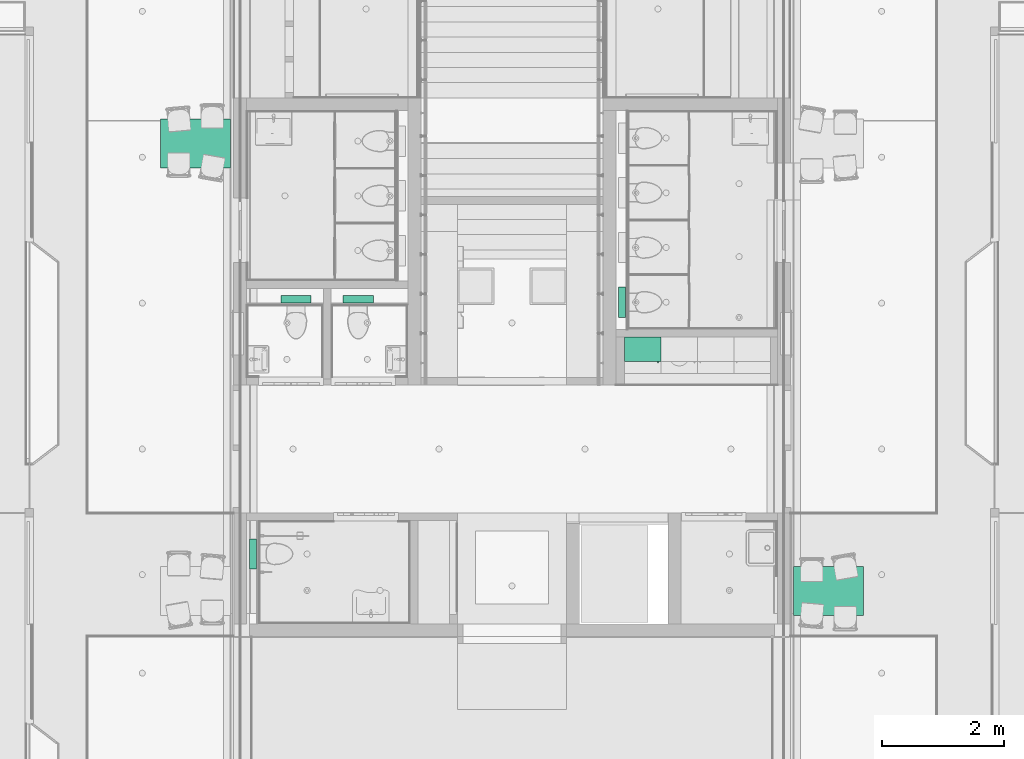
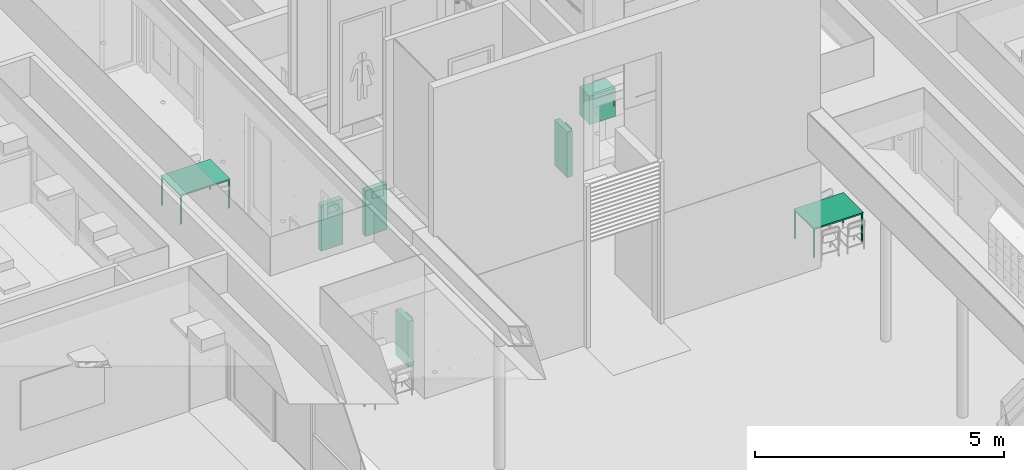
# One storey, part 179 of 347: 4 flow terminals, 3 distribution elements.
"""IFC2X3 building model written with IfcOpenShell, lengths in millimetres."""

from ifc_helpers import new_model, entity, si_unit, converted_unit, derived_unit, money_unit, direction, frame, origin_with_axes, place, context, subcontext, project, spatial, open_shell, faceted_brep, surface_model, source, transform, mapped, type_object, type_shapes, element, save


model = new_model("IFC2X3")

# Units and contexts
model_context = context("Model", 3, precision=0.01, world=origin_with_axes(), true_north=direction((0.0, 1.0)))
plan_context = context("Plan", 3, precision=0.01, world=origin_with_axes(), true_north=direction((0.0, 1.0)))
body_context = subcontext(model_context, "Body", "Model", "MODEL_VIEW")
ifc_project = project(units=[si_unit("LENGTHUNIT", "METRE", prefix="MILLI"), si_unit("AREAUNIT", "SQUARE_METRE"), si_unit("VOLUMEUNIT", "CUBIC_METRE"), converted_unit("PLANEANGLEUNIT", "DEGREE", entity("IfcPlaneAngleMeasure", 0.0174532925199), si_unit("PLANEANGLEUNIT", "RADIAN"), dimensions=[0, 0, 0, 0, 0, 0, 0]), money_unit("EUR"), converted_unit("TIMEUNIT", "Year", entity("IfcTimeMeasure", 31556926.0), si_unit("TIMEUNIT", "SECOND"), dimensions=[0, 0, 1, 0, 0, 0, 0]), si_unit("MASSUNIT", "GRAM", prefix="KILO"), si_unit("THERMODYNAMICTEMPERATUREUNIT", "DEGREE_CELSIUS"), si_unit("LUMINOUSINTENSITYUNIT", "LUMEN"), si_unit("ENERGYUNIT", "JOULE", prefix="MEGA"), derived_unit("THERMALCONDUCTANCEUNIT", [(si_unit("POWERUNIT", "WATT"), 1), (si_unit("LENGTHUNIT", "METRE"), -1), (si_unit("THERMODYNAMICTEMPERATUREUNIT", "KELVIN"), -1)]), derived_unit("SPECIFICHEATCAPACITYUNIT", [(si_unit("ENERGYUNIT", "JOULE"), 1), (si_unit("MASSUNIT", "GRAM", prefix="KILO"), -1), (si_unit("THERMODYNAMICTEMPERATUREUNIT", "KELVIN"), -1)]), derived_unit("MASSDENSITYUNIT", [(si_unit("MASSUNIT", "GRAM", prefix="KILO"), 1), (si_unit("VOLUMEUNIT", "CUBIC_METRE"), -1)])], contexts=[model_context, plan_context])

# Site, building, storey
site_placement = place(None, origin_with_axes())
site = spatial("IfcSite", under=ifc_project, at=site_placement, Name="Site", CompositionType="ELEMENT")
building_placement = place(site_placement, origin_with_axes())
building = spatial("IfcBuilding", under=site, at=building_placement, Name="Naam gebouw", CompositionType="ELEMENT")
storey_placement = place(building_placement, origin_with_axes())
storey = spatial("IfcBuildingStorey", under=building, at=storey_placement, Name="begane grond", CompositionType="ELEMENT", Elevation=0.0)

# Flow terminals
sanitary_terminal_type = type_object("IfcSanitaryTerminalType", Name="Inbouwreservoir 25 KM", PredefinedType="CISTERN")
shared_shape_1 = source(origin_with_axes(), body_context, "Body", "SurfaceModel", [
    faceted_brep([(0.0, 0.0, 0.0), (500.0, 0.0, 0.0), (500.0, 0.0, 1120.0), (0.0, 0.0, 1120.0), (0.0, 120.0, 0.0), (500.0, 120.0, 0.0), (500.0, 120.0, 1120.0), (0.0, 120.0, 1120.0)], [[[0, 1, 2, 3]], [[0, 4, 5, 1]], [[1, 5, 6, 2]], [[3, 2, 6, 7]], [[4, 0, 3, 7]], [[5, 4, 7, 6]]]),
    surface_model("IfcShellBasedSurfaceModel", [(1.0, 0.0, 0.0), (499.0, 0.0, 0.0), (499.0, 120.0, 1120.0), (1.0, 120.0, 1120.0)], [open_shell([[[0, 1, 2, 3]]])]),
    surface_model("IfcShellBasedSurfaceModel", [(1.0, 0.0, 1120.0), (499.0, 0.0, 1120.0), (499.0, 120.0, 0.0), (1.0, 120.0, 0.0)], [open_shell([[[0, 1, 2, 3]]])]),
    faceted_brep([(375.0, -60.0, 920.0), (125.0, -60.0, 920.0), (125.0, -50.0, 920.0), (375.0, -50.0, 920.0), (375.0, -60.0, 1080.0), (125.0, -60.0, 1080.0), (125.0, -50.0, 1080.0), (375.0, -50.0, 1080.0)], [[[0, 1, 2, 3]], [[1, 0, 4, 5]], [[2, 1, 5, 6]], [[3, 2, 6, 7]], [[0, 3, 7, 4]], [[5, 4, 7, 6]]]),
    faceted_brep([(325.0, 0.0, 950.0), (175.0, 0.0, 950.0), (175.0, 0.0, 1050.0), (325.0, 0.0, 1050.0), (325.0, -50.0, 950.0), (175.0, -50.0, 950.0), (175.0, -50.0, 1050.0), (325.0, -50.0, 1050.0)], [[[0, 1, 2, 3]], [[1, 0, 4, 5]], [[2, 1, 5, 6]], [[3, 2, 6, 7]], [[0, 3, 7, 4]], [[5, 4, 7, 6]]]),
    surface_model("IfcShellBasedSurfaceModel", [(175.0, -60.0, 920.0), (325.0, -60.0, 920.0), (325.0, -60.0, 955.0), (175.0, -60.0, 955.0)], [open_shell([[[0, 1, 2, 3]]])]),
    surface_model("IfcShellBasedSurfaceModel", [(175.0, -60.0, 955.0), (265.0, -60.0, 955.0), (265.0, -60.0, 1045.0), (175.0, -60.0, 1045.0)], [open_shell([[[0, 1, 2, 3]]])]),
    surface_model("IfcShellBasedSurfaceModel", [(265.0, -60.0, 955.0), (325.0, -60.0, 955.0), (325.0, -60.0, 1045.0), (265.0, -60.0, 1045.0)], [open_shell([[[0, 1, 2, 3]]])]),
])
for number, where, z_axis, x_axis, name in (
    (1, (36272.5, 31429.9999276, 0.0), (0.0, 0.0, 1.0), (1.0, 0.0, 0.0), "53_Sanitair-inbouw DuoFix"),
    (2, (37297.5, 31429.9999276, 0.0), (0.0, 0.0, 1.0), (1.0, 0.0, 0.0), "53_Sanitair-inbouw DuoFix"),
):
    element("IfcFlowTerminal", number, at=place(storey_placement, frame(where, z_axis=z_axis, x_axis=x_axis)), inside=storey, type_object=sanitary_terminal_type, Name=name, context=body_context, shape_type="MappedRepresentation", body=[
        mapped(shared_shape_1, transform((0.0, 0.0, 0.0))),
    ])
shared_shape_2 = source(origin_with_axes(), body_context, "Body", "SurfaceModel", [
    faceted_brep([(0.0, 0.0, 0.0), (0.0, 0.0, 1120.0), (-500.0, 0.0, 1120.0), (-500.0, 0.0, 0.0), (0.0, 120.0, 0.0), (0.0, 120.0, 1120.0), (-500.0, 120.0, 1120.0), (-500.0, 120.0, 0.0)], [[[0, 1, 2, 3]], [[4, 5, 1, 0]], [[1, 5, 6, 2]], [[3, 2, 6, 7]], [[0, 3, 7, 4]], [[7, 6, 5, 4]]]),
    surface_model("IfcShellBasedSurfaceModel", [(-1.0, 0.0, 0.0), (-1.0, 120.0, 1120.0), (-499.0, 120.0, 1120.0), (-499.0, 0.0, 0.0)], [open_shell([[[0, 1, 2, 3]]])]),
    surface_model("IfcShellBasedSurfaceModel", [(-1.0, 0.0, 1120.0), (-1.0, 120.0, 0.0), (-499.0, 120.0, 0.0), (-499.0, 0.0, 1120.0)], [open_shell([[[0, 1, 2, 3]]])]),
    faceted_brep([(-375.0, -60.0, 920.0), (-375.0, -50.0, 920.0), (-125.0, -50.0, 920.0), (-125.0, -60.0, 920.0), (-375.0, -60.0, 1080.0), (-375.0, -50.0, 1080.0), (-125.0, -50.0, 1080.0), (-125.0, -60.0, 1080.0)], [[[0, 1, 2, 3]], [[0, 4, 5, 1]], [[1, 5, 6, 2]], [[2, 6, 7, 3]], [[3, 7, 4, 0]], [[7, 6, 5, 4]]]),
    faceted_brep([(-325.0, 0.0, 950.0), (-325.0, 0.0, 1050.0), (-175.0, 0.0, 1050.0), (-175.0, 0.0, 950.0), (-325.0, -50.0, 950.0), (-325.0, -50.0, 1050.0), (-175.0, -50.0, 1050.0), (-175.0, -50.0, 950.0)], [[[0, 1, 2, 3]], [[0, 4, 5, 1]], [[1, 5, 6, 2]], [[2, 6, 7, 3]], [[3, 7, 4, 0]], [[7, 6, 5, 4]]]),
    surface_model("IfcShellBasedSurfaceModel", [(-175.0, -60.0, 920.0), (-175.0, -60.0, 955.0), (-325.0, -60.0, 955.0), (-325.0, -60.0, 920.0)], [open_shell([[[0, 1, 2, 3]]])]),
    surface_model("IfcShellBasedSurfaceModel", [(-175.0, -60.0, 955.0), (-175.0, -60.0, 1045.0), (-265.0, -60.0, 1045.0), (-265.0, -60.0, 955.0)], [open_shell([[[0, 1, 2, 3]]])]),
    surface_model("IfcShellBasedSurfaceModel", [(-265.0, -60.0, 955.0), (-265.0, -60.0, 1045.0), (-325.0, -60.0, 1045.0), (-325.0, -60.0, 955.0)], [open_shell([[[0, 1, 2, 3]]])]),
])
type_shapes(sanitary_terminal_type, [shared_shape_1, shared_shape_2])
for number, where, z_axis, x_axis, name in (
    (3, (35875.0, 27550.0, 0.0), (0.0, 0.0, 1.0), (0.0, 1.0, 0.0), "53_Sanitair-inbouw DuoFix"),
    (4, (41945.000006, 31689.9999523, 0.0), (0.0, 0.0, 1.0), (0.0, 1.0, 0.0), "53_Sanitair-inbouw DuoFix"),
):
    element("IfcFlowTerminal", number, at=place(storey_placement, frame(where, z_axis=z_axis, x_axis=x_axis)), inside=storey, type_object=sanitary_terminal_type, Name=name, context=body_context, shape_type="MappedRepresentation", body=[
        mapped(shared_shape_2, transform((0.0, 0.0, 0.0))),
    ])

# Distribution elements
distribution_element_type_1 = type_object("IfcDistributionElementType", Name="Tafel rechthoekig 01 25")
shared_shape_3 = source(origin_with_axes(), body_context, "Body", "Brep", [
    faceted_brep([(-37.3205080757, 10.0, 0.0), (-40.0, 20.0, 0.0), (-37.3205080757, 30.0, 0.0), (-30.0, 37.3205080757, 0.0), (-20.0, 40.0, 0.0), (-10.0, 37.3205080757, 0.0), (-2.67949192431, 30.0, 0.0), (0.0, 20.0, 0.0), (-2.67949192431, 10.0, 0.0), (-10.0, 2.67949192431, 0.0), (-20.0, 0.0, 0.0), (-30.0, 2.67949192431, 0.0), (-37.3205080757, 10.0, 700.0), (-40.0, 20.0, 700.0), (-37.3205080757, 30.0, 700.0), (-30.0, 37.3205080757, 700.0), (-20.0, 40.0, 700.0), (-10.0, 37.3205080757, 700.0), (-2.67949192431, 30.0, 700.0), (0.0, 20.0, 700.0), (-2.67949192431, 10.0, 700.0), (-10.0, 2.67949192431, 700.0), (-20.0, 0.0, 700.0), (-30.0, 2.67949192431, 700.0)], [[[0, 1, 2, 3, 4, 5, 6, 7, 8, 9, 10, 11]], [[0, 12, 13, 1]], [[1, 13, 14, 2]], [[2, 14, 15, 3]], [[3, 15, 16, 4]], [[4, 16, 17, 5]], [[5, 17, 18, 6]], [[6, 18, 19, 7]], [[7, 19, 20, 8]], [[8, 20, 21, 9]], [[9, 21, 22, 10]], [[10, 22, 23, 11]], [[11, 23, 12, 0]], [[12, 23, 22, 21, 20, 19, 18, 17, 16, 15, 14, 13]]]),
    faceted_brep([(-1147.32050808, 10.0, 0.0), (-1150.0, 20.0, 0.0), (-1147.32050808, 30.0, 0.0), (-1140.0, 37.3205080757, 0.0), (-1130.0, 40.0, 0.0), (-1120.0, 37.3205080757, 0.0), (-1112.67949192, 30.0, 0.0), (-1110.0, 20.0, 0.0), (-1112.67949192, 10.0, 0.0), (-1120.0, 2.67949192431, 0.0), (-1130.0, 0.0, 0.0), (-1140.0, 2.67949192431, 0.0), (-1147.32050808, 10.0, 700.0), (-1150.0, 20.0, 700.0), (-1147.32050808, 30.0, 700.0), (-1140.0, 37.3205080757, 700.0), (-1130.0, 40.0, 700.0), (-1120.0, 37.3205080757, 700.0), (-1112.67949192, 30.0, 700.0), (-1110.0, 20.0, 700.0), (-1112.67949192, 10.0, 700.0), (-1120.0, 2.67949192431, 700.0), (-1130.0, 0.0, 700.0), (-1140.0, 2.67949192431, 700.0)], [[[0, 1, 2, 3, 4, 5, 6, 7, 8, 9, 10, 11]], [[0, 12, 13, 1]], [[1, 13, 14, 2]], [[2, 14, 15, 3]], [[3, 15, 16, 4]], [[4, 16, 17, 5]], [[5, 17, 18, 6]], [[6, 18, 19, 7]], [[7, 19, 20, 8]], [[8, 20, 21, 9]], [[9, 21, 22, 10]], [[10, 22, 23, 11]], [[11, 23, 12, 0]], [[12, 23, 22, 21, 20, 19, 18, 17, 16, 15, 14, 13]]]),
    faceted_brep([(-37.3205080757, 770.0, 0.0), (-40.0, 780.0, 0.0), (-37.3205080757, 790.0, 0.0), (-30.0, 797.320508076, 0.0), (-20.0, 800.0, 0.0), (-10.0, 797.320508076, 0.0), (-2.67949192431, 790.0, 0.0), (0.0, 780.0, 0.0), (-2.67949192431, 770.0, 0.0), (-10.0, 762.679491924, 0.0), (-20.0, 760.0, 0.0), (-30.0, 762.679491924, 0.0), (-37.3205080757, 770.0, 700.0), (-40.0, 780.0, 700.0), (-37.3205080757, 790.0, 700.0), (-30.0, 797.320508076, 700.0), (-20.0, 800.0, 700.0), (-10.0, 797.320508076, 700.0), (-2.67949192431, 790.0, 700.0), (0.0, 780.0, 700.0), (-2.67949192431, 770.0, 700.0), (-10.0, 762.679491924, 700.0), (-20.0, 760.0, 700.0), (-30.0, 762.679491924, 700.0)], [[[0, 1, 2, 3, 4, 5, 6, 7, 8, 9, 10, 11]], [[0, 12, 13, 1]], [[1, 13, 14, 2]], [[2, 14, 15, 3]], [[3, 15, 16, 4]], [[4, 16, 17, 5]], [[5, 17, 18, 6]], [[6, 18, 19, 7]], [[7, 19, 20, 8]], [[8, 20, 21, 9]], [[9, 21, 22, 10]], [[10, 22, 23, 11]], [[11, 23, 12, 0]], [[12, 23, 22, 21, 20, 19, 18, 17, 16, 15, 14, 13]]]),
    faceted_brep([(-1147.32050808, 770.0, 0.0), (-1150.0, 780.0, 0.0), (-1147.32050808, 790.0, 0.0), (-1140.0, 797.320508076, 0.0), (-1130.0, 800.0, 0.0), (-1120.0, 797.320508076, 0.0), (-1112.67949192, 790.0, 0.0), (-1110.0, 780.0, 0.0), (-1112.67949192, 770.0, 0.0), (-1120.0, 762.679491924, 0.0), (-1130.0, 760.0, 0.0), (-1140.0, 762.679491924, 0.0), (-1147.32050808, 770.0, 700.0), (-1150.0, 780.0, 700.0), (-1147.32050808, 790.0, 700.0), (-1140.0, 797.320508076, 700.0), (-1130.0, 800.0, 700.0), (-1120.0, 797.320508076, 700.0), (-1112.67949192, 790.0, 700.0), (-1110.0, 780.0, 700.0), (-1112.67949192, 770.0, 700.0), (-1120.0, 762.679491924, 700.0), (-1130.0, 760.0, 700.0), (-1140.0, 762.679491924, 700.0)], [[[0, 1, 2, 3, 4, 5, 6, 7, 8, 9, 10, 11]], [[0, 12, 13, 1]], [[1, 13, 14, 2]], [[2, 14, 15, 3]], [[3, 15, 16, 4]], [[4, 16, 17, 5]], [[5, 17, 18, 6]], [[6, 18, 19, 7]], [[7, 19, 20, 8]], [[8, 20, 21, 9]], [[9, 21, 22, 10]], [[10, 22, 23, 11]], [[11, 23, 12, 0]], [[12, 23, 22, 21, 20, 19, 18, 17, 16, 15, 14, 13]]]),
    faceted_brep([(-1150.0, 0.0, 700.0), (-1150.0, 800.0, 700.0), (0.0, 800.0, 700.0), (0.0, 0.0, 700.0), (-1150.0, 0.0, 720.0), (-1150.0, 800.0, 720.0), (0.0, 800.0, 720.0), (0.0, 0.0, 720.0)], [[[0, 1, 2, 3]], [[0, 4, 5, 1]], [[1, 5, 6, 2]], [[2, 6, 7, 3]], [[3, 7, 4, 0]], [[7, 6, 5, 4]]]),
    faceted_brep([(-1110.0, 10.0, 675.0), (-1110.0, 30.0, 675.0), (-40.0, 30.0, 675.0), (-40.0, 10.0, 675.0), (-1110.0, 10.0, 700.0), (-1110.0, 30.0, 700.0), (-40.0, 30.0, 700.0), (-40.0, 10.0, 700.0)], [[[0, 1, 2, 3]], [[0, 4, 5, 1]], [[1, 5, 6, 2]], [[2, 6, 7, 3]], [[3, 7, 4, 0]], [[7, 6, 5, 4]]]),
    faceted_brep([(-30.0, 40.0, 675.0), (-30.0, 760.0, 675.0), (-10.0, 760.0, 675.0), (-10.0, 40.0, 675.0), (-30.0, 40.0, 700.0), (-30.0, 760.0, 700.0), (-10.0, 760.0, 700.0), (-10.0, 40.0, 700.0)], [[[0, 1, 2, 3]], [[0, 4, 5, 1]], [[1, 5, 6, 2]], [[2, 6, 7, 3]], [[3, 7, 4, 0]], [[7, 6, 5, 4]]]),
    faceted_brep([(-40.0, 790.0, 675.0), (-40.0, 770.0, 675.0), (-1110.0, 770.0, 675.0), (-1110.0, 790.0, 675.0), (-40.0, 790.0, 700.0), (-40.0, 770.0, 700.0), (-1110.0, 770.0, 700.0), (-1110.0, 790.0, 700.0)], [[[0, 1, 2, 3]], [[0, 4, 5, 1]], [[1, 5, 6, 2]], [[2, 6, 7, 3]], [[3, 7, 4, 0]], [[7, 6, 5, 4]]]),
    faceted_brep([(-1120.0, 760.0, 675.0), (-1120.0, 40.0, 675.0), (-1140.0, 40.0, 675.0), (-1140.0, 760.0, 675.0), (-1120.0, 760.0, 700.0), (-1120.0, 40.0, 700.0), (-1140.0, 40.0, 700.0), (-1140.0, 760.0, 700.0)], [[[0, 1, 2, 3]], [[0, 4, 5, 1]], [[1, 5, 6, 2]], [[2, 6, 7, 3]], [[3, 7, 4, 0]], [[7, 6, 5, 4]]]),
])
distribution_element_1_placement = place(storey_placement, frame((35445.0, 33650.0, 0.0), z_axis=(0.0, 0.0, 1.0), x_axis=(1.0, 0.0, 0.0)))
element("IfcDistributionElement", 5, at=distribution_element_1_placement, inside=storey, type_object=distribution_element_type_1, Name="65 Beveiliging_73 pantryblok", context=body_context, shape_type="MappedRepresentation", body=[
    mapped(shared_shape_3, transform((0.0, 0.0, 0.0))),
])
shared_shape_4 = source(origin_with_axes(), body_context, "Body", "Brep", [
    faceted_brep([(37.3205080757, 10.0, 0.0), (30.0, 2.67949192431, 0.0), (20.0, 0.0, 0.0), (10.0, 2.67949192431, 0.0), (2.67949192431, 10.0, 0.0), (0.0, 20.0, 0.0), (2.67949192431, 30.0, 0.0), (10.0, 37.3205080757, 0.0), (20.0, 40.0, 0.0), (30.0, 37.3205080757, 0.0), (37.3205080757, 30.0, 0.0), (40.0, 20.0, 0.0), (37.3205080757, 10.0, 700.0), (30.0, 2.67949192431, 700.0), (20.0, 0.0, 700.0), (10.0, 2.67949192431, 700.0), (2.67949192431, 10.0, 700.0), (0.0, 20.0, 700.0), (2.67949192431, 30.0, 700.0), (10.0, 37.3205080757, 700.0), (20.0, 40.0, 700.0), (30.0, 37.3205080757, 700.0), (37.3205080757, 30.0, 700.0), (40.0, 20.0, 700.0)], [[[0, 1, 2, 3, 4, 5, 6, 7, 8, 9, 10, 11]], [[1, 0, 12, 13]], [[2, 1, 13, 14]], [[3, 2, 14, 15]], [[4, 3, 15, 16]], [[5, 4, 16, 17]], [[6, 5, 17, 18]], [[7, 6, 18, 19]], [[8, 7, 19, 20]], [[9, 8, 20, 21]], [[10, 9, 21, 22]], [[11, 10, 22, 23]], [[0, 11, 23, 12]], [[12, 23, 22, 21, 20, 19, 18, 17, 16, 15, 14, 13]]]),
    faceted_brep([(1147.32050808, 10.0, 0.0), (1140.0, 2.67949192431, 0.0), (1130.0, 0.0, 0.0), (1120.0, 2.67949192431, 0.0), (1112.67949192, 10.0, 0.0), (1110.0, 20.0, 0.0), (1112.67949192, 30.0, 0.0), (1120.0, 37.3205080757, 0.0), (1130.0, 40.0, 0.0), (1140.0, 37.3205080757, 0.0), (1147.32050808, 30.0, 0.0), (1150.0, 20.0, 0.0), (1147.32050808, 10.0, 700.0), (1140.0, 2.67949192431, 700.0), (1130.0, 0.0, 700.0), (1120.0, 2.67949192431, 700.0), (1112.67949192, 10.0, 700.0), (1110.0, 20.0, 700.0), (1112.67949192, 30.0, 700.0), (1120.0, 37.3205080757, 700.0), (1130.0, 40.0, 700.0), (1140.0, 37.3205080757, 700.0), (1147.32050808, 30.0, 700.0), (1150.0, 20.0, 700.0)], [[[0, 1, 2, 3, 4, 5, 6, 7, 8, 9, 10, 11]], [[1, 0, 12, 13]], [[2, 1, 13, 14]], [[3, 2, 14, 15]], [[4, 3, 15, 16]], [[5, 4, 16, 17]], [[6, 5, 17, 18]], [[7, 6, 18, 19]], [[8, 7, 19, 20]], [[9, 8, 20, 21]], [[10, 9, 21, 22]], [[11, 10, 22, 23]], [[0, 11, 23, 12]], [[12, 23, 22, 21, 20, 19, 18, 17, 16, 15, 14, 13]]]),
    faceted_brep([(37.3205080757, 770.0, 0.0), (30.0, 762.679491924, 0.0), (20.0, 760.0, 0.0), (10.0, 762.679491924, 0.0), (2.67949192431, 770.0, 0.0), (0.0, 780.0, 0.0), (2.67949192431, 790.0, 0.0), (10.0, 797.320508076, 0.0), (20.0, 800.0, 0.0), (30.0, 797.320508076, 0.0), (37.3205080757, 790.0, 0.0), (40.0, 780.0, 0.0), (37.3205080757, 770.0, 700.0), (30.0, 762.679491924, 700.0), (20.0, 760.0, 700.0), (10.0, 762.679491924, 700.0), (2.67949192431, 770.0, 700.0), (0.0, 780.0, 700.0), (2.67949192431, 790.0, 700.0), (10.0, 797.320508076, 700.0), (20.0, 800.0, 700.0), (30.0, 797.320508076, 700.0), (37.3205080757, 790.0, 700.0), (40.0, 780.0, 700.0)], [[[0, 1, 2, 3, 4, 5, 6, 7, 8, 9, 10, 11]], [[1, 0, 12, 13]], [[2, 1, 13, 14]], [[3, 2, 14, 15]], [[4, 3, 15, 16]], [[5, 4, 16, 17]], [[6, 5, 17, 18]], [[7, 6, 18, 19]], [[8, 7, 19, 20]], [[9, 8, 20, 21]], [[10, 9, 21, 22]], [[11, 10, 22, 23]], [[0, 11, 23, 12]], [[12, 23, 22, 21, 20, 19, 18, 17, 16, 15, 14, 13]]]),
    faceted_brep([(1147.32050808, 770.0, 0.0), (1140.0, 762.679491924, 0.0), (1130.0, 760.0, 0.0), (1120.0, 762.679491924, 0.0), (1112.67949192, 770.0, 0.0), (1110.0, 780.0, 0.0), (1112.67949192, 790.0, 0.0), (1120.0, 797.320508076, 0.0), (1130.0, 800.0, 0.0), (1140.0, 797.320508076, 0.0), (1147.32050808, 790.0, 0.0), (1150.0, 780.0, 0.0), (1147.32050808, 770.0, 700.0), (1140.0, 762.679491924, 700.0), (1130.0, 760.0, 700.0), (1120.0, 762.679491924, 700.0), (1112.67949192, 770.0, 700.0), (1110.0, 780.0, 700.0), (1112.67949192, 790.0, 700.0), (1120.0, 797.320508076, 700.0), (1130.0, 800.0, 700.0), (1140.0, 797.320508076, 700.0), (1147.32050808, 790.0, 700.0), (1150.0, 780.0, 700.0)], [[[0, 1, 2, 3, 4, 5, 6, 7, 8, 9, 10, 11]], [[1, 0, 12, 13]], [[2, 1, 13, 14]], [[3, 2, 14, 15]], [[4, 3, 15, 16]], [[5, 4, 16, 17]], [[6, 5, 17, 18]], [[7, 6, 18, 19]], [[8, 7, 19, 20]], [[9, 8, 20, 21]], [[10, 9, 21, 22]], [[11, 10, 22, 23]], [[0, 11, 23, 12]], [[12, 23, 22, 21, 20, 19, 18, 17, 16, 15, 14, 13]]]),
    faceted_brep([(1150.0, 0.0, 700.0), (0.0, 0.0, 700.0), (0.0, 800.0, 700.0), (1150.0, 800.0, 700.0), (1150.0, 0.0, 720.0), (0.0, 0.0, 720.0), (0.0, 800.0, 720.0), (1150.0, 800.0, 720.0)], [[[0, 1, 2, 3]], [[1, 0, 4, 5]], [[2, 1, 5, 6]], [[3, 2, 6, 7]], [[0, 3, 7, 4]], [[5, 4, 7, 6]]]),
    faceted_brep([(1110.0, 10.0, 675.0), (40.0, 10.0, 675.0), (40.0, 30.0, 675.0), (1110.0, 30.0, 675.0), (1110.0, 10.0, 700.0), (40.0, 10.0, 700.0), (40.0, 30.0, 700.0), (1110.0, 30.0, 700.0)], [[[0, 1, 2, 3]], [[1, 0, 4, 5]], [[2, 1, 5, 6]], [[3, 2, 6, 7]], [[0, 3, 7, 4]], [[5, 4, 7, 6]]]),
    faceted_brep([(30.0, 40.0, 675.0), (10.0, 40.0, 675.0), (10.0, 760.0, 675.0), (30.0, 760.0, 675.0), (30.0, 40.0, 700.0), (10.0, 40.0, 700.0), (10.0, 760.0, 700.0), (30.0, 760.0, 700.0)], [[[0, 1, 2, 3]], [[1, 0, 4, 5]], [[2, 1, 5, 6]], [[3, 2, 6, 7]], [[0, 3, 7, 4]], [[5, 4, 7, 6]]]),
    faceted_brep([(40.0, 790.0, 675.0), (1110.0, 790.0, 675.0), (1110.0, 770.0, 675.0), (40.0, 770.0, 675.0), (40.0, 790.0, 700.0), (1110.0, 790.0, 700.0), (1110.0, 770.0, 700.0), (40.0, 770.0, 700.0)], [[[0, 1, 2, 3]], [[1, 0, 4, 5]], [[2, 1, 5, 6]], [[3, 2, 6, 7]], [[0, 3, 7, 4]], [[5, 4, 7, 6]]]),
    faceted_brep([(1120.0, 760.0, 675.0), (1140.0, 760.0, 675.0), (1140.0, 40.0, 675.0), (1120.0, 40.0, 675.0), (1120.0, 760.0, 700.0), (1140.0, 760.0, 700.0), (1140.0, 40.0, 700.0), (1120.0, 40.0, 700.0)], [[[0, 1, 2, 3]], [[1, 0, 4, 5]], [[2, 1, 5, 6]], [[3, 2, 6, 7]], [[0, 3, 7, 4]], [[5, 4, 7, 6]]]),
])
type_shapes(distribution_element_type_1, [shared_shape_3, shared_shape_4])
distribution_element_2_placement = place(storey_placement, frame((45854.9999994, 27090.0, 0.0), z_axis=(0.0, 0.0, 1.0), x_axis=(-1.0, 0.0, 0.0)))
element("IfcDistributionElement", 6, at=distribution_element_2_placement, inside=storey, type_object=distribution_element_type_1, Name="65 Beveiliging_73 pantryblok", context=body_context, shape_type="MappedRepresentation", body=[
    mapped(shared_shape_4, transform((0.0, 0.0, 0.0))),
])
distribution_element_type_2 = type_object("IfcDistributionElementType", Name="Bovenkast recht 25")
shared_shape_5 = source(origin_with_axes(), body_context, "Body", "Brep", [
    faceted_brep([(18.0, -380.0, 1841.0), (582.0, -380.0, 1841.0), (582.0, -380.0, 1859.0), (18.0, -380.0, 1859.0), (18.0, -18.0, 1841.0), (582.0, -18.0, 1841.0), (582.0, -18.0, 1859.0), (18.0, -18.0, 1859.0)], [[[0, 1, 2, 3]], [[0, 4, 5, 1]], [[1, 5, 6, 2]], [[3, 2, 6, 7]], [[4, 0, 3, 7]], [[5, 4, 7, 6]]]),
    faceted_brep([(546.0, -398.0, 1776.0), (546.0, -398.0, 1786.0), (556.0, -398.0, 1786.0), (556.0, -398.0, 1776.0), (546.0, -408.0, 1776.0), (546.0, -411.472963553, 1776.30384494), (546.0, -414.840402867, 1777.20614758), (546.0, -418.0, 1778.67949192), (546.0, -420.855752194, 1780.67911114), (546.0, -423.320888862, 1783.14424781), (546.0, -425.320508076, 1786.0), (546.0, -426.793852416, 1789.15959713), (546.0, -427.69615506, 1792.52703645), (546.0, -428.0, 1796.0), (546.0, -428.0, 1906.0), (546.0, -427.69615506, 1909.47296355), (546.0, -426.793852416, 1912.84040287), (546.0, -425.320508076, 1916.0), (546.0, -423.320888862, 1918.85575219), (546.0, -420.855752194, 1921.32088886), (546.0, -418.0, 1923.32050808), (546.0, -414.840402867, 1924.79385242), (546.0, -411.472963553, 1925.69615506), (546.0, -408.0, 1926.0), (546.0, -398.0, 1926.0), (546.0, -398.0, 1916.0), (546.0, -408.0, 1916.0), (546.0, -409.736481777, 1915.84807753), (546.0, -411.420201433, 1915.39692621), (546.0, -413.0, 1914.66025404), (546.0, -414.427876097, 1913.66044443), (546.0, -415.660444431, 1912.4278761), (546.0, -416.660254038, 1911.0), (546.0, -417.396926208, 1909.42020143), (546.0, -417.84807753, 1907.73648178), (546.0, -418.0, 1906.0), (546.0, -418.0, 1796.0), (546.0, -417.84807753, 1794.26351822), (546.0, -417.396926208, 1792.57979857), (546.0, -416.660254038, 1791.0), (546.0, -415.660444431, 1789.5721239), (546.0, -414.427876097, 1788.33955557), (546.0, -413.0, 1787.33974596), (546.0, -411.420201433, 1786.60307379), (546.0, -409.736481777, 1786.15192247), (546.0, -408.0, 1786.0), (556.0, -408.0, 1786.0), (556.0, -409.736481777, 1786.15192247), (556.0, -411.420201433, 1786.60307379), (556.0, -413.0, 1787.33974596), (556.0, -414.427876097, 1788.33955557), (556.0, -415.660444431, 1789.5721239), (556.0, -416.660254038, 1791.0), (556.0, -417.396926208, 1792.57979857), (556.0, -417.84807753, 1794.26351822), (556.0, -418.0, 1796.0), (556.0, -418.0, 1906.0), (556.0, -417.84807753, 1907.73648178), (556.0, -417.396926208, 1909.42020143), (556.0, -416.660254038, 1911.0), (556.0, -415.660444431, 1912.4278761), (556.0, -414.427876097, 1913.66044443), (556.0, -413.0, 1914.66025404), (556.0, -411.420201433, 1915.39692621), (556.0, -409.736481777, 1915.84807753), (556.0, -408.0, 1916.0), (556.0, -398.0, 1916.0), (556.0, -398.0, 1926.0), (556.0, -408.0, 1926.0), (556.0, -411.472963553, 1925.69615506), (556.0, -414.840402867, 1924.79385242), (556.0, -418.0, 1923.32050808), (556.0, -420.855752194, 1921.32088886), (556.0, -423.320888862, 1918.85575219), (556.0, -425.320508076, 1916.0), (556.0, -426.793852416, 1912.84040287), (556.0, -427.69615506, 1909.47296355), (556.0, -428.0, 1906.0), (556.0, -428.0, 1796.0), (556.0, -427.69615506, 1792.52703645), (556.0, -426.793852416, 1789.15959713), (556.0, -425.320508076, 1786.0), (556.0, -423.320888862, 1783.14424781), (556.0, -420.855752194, 1780.67911114), (556.0, -418.0, 1778.67949192), (556.0, -414.840402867, 1777.20614758), (556.0, -411.472963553, 1776.30384494), (556.0, -408.0, 1776.0)], [[[0, 1, 2, 3]], [[0, 4, 5, 6, 7, 8, 9, 10, 11, 12, 13, 14, 15, 16, 17, 18, 19, 20, 21, 22, 23, 24, 25, 26, 27, 28, 29, 30, 31, 32, 33, 34, 35, 36, 37, 38, 39, 40, 41, 42, 43, 44, 45, 1]], [[1, 45, 46, 2]], [[3, 2, 46, 47, 48, 49, 50, 51, 52, 53, 54, 55, 56, 57, 58, 59, 60, 61, 62, 63, 64, 65, 66, 67, 68, 69, 70, 71, 72, 73, 74, 75, 76, 77, 78, 79, 80, 81, 82, 83, 84, 85, 86, 87]], [[4, 0, 3, 87]], [[5, 4, 87, 86]], [[6, 5, 86, 85]], [[7, 6, 85, 84]], [[8, 7, 84, 83]], [[9, 8, 83, 82]], [[10, 9, 82, 81]], [[11, 10, 81, 80]], [[12, 11, 80, 79]], [[13, 12, 79, 78]], [[14, 13, 78, 77]], [[15, 14, 77, 76]], [[16, 15, 76, 75]], [[17, 16, 75, 74]], [[18, 17, 74, 73]], [[19, 18, 73, 72]], [[20, 19, 72, 71]], [[21, 20, 71, 70]], [[22, 21, 70, 69]], [[23, 22, 69, 68]], [[24, 23, 68, 67]], [[25, 24, 67, 66]], [[26, 25, 66, 65]], [[27, 26, 65, 64]], [[28, 27, 64, 63]], [[29, 28, 63, 62]], [[30, 29, 62, 61]], [[31, 30, 61, 60]], [[32, 31, 60, 59]], [[33, 32, 59, 58]], [[34, 33, 58, 57]], [[35, 34, 57, 56]], [[36, 35, 56, 55]], [[37, 36, 55, 54]], [[38, 37, 54, 53]], [[39, 38, 53, 52]], [[40, 39, 52, 51]], [[41, 40, 51, 50]], [[42, 41, 50, 49]], [[43, 42, 49, 48]], [[44, 43, 48, 47]], [[45, 44, 47, 46]]]),
    faceted_brep([(1.0, -380.0, 1501.0), (599.0, -380.0, 1501.0), (599.0, -398.0, 1501.0), (1.0, -398.0, 1501.0), (1.0, -380.0, 2199.0), (599.0, -380.0, 2199.0), (599.0, -398.0, 2199.0), (1.0, -398.0, 2199.0)], [[[0, 1, 2, 3]], [[0, 4, 5, 1]], [[1, 5, 6, 2]], [[3, 2, 6, 7]], [[4, 0, 3, 7]], [[5, 4, 7, 6]]]),
    faceted_brep([(18.0, -380.0, 1500.0), (582.0, -380.0, 1500.0), (582.0, -380.0, 1518.0), (18.0, -380.0, 1518.0), (18.0, 0.0, 1500.0), (582.0, 0.0, 1500.0), (582.0, 0.0, 1518.0), (18.0, 0.0, 1518.0)], [[[0, 1, 2, 3]], [[0, 4, 5, 1]], [[1, 5, 6, 2]], [[3, 2, 6, 7]], [[4, 0, 3, 7]], [[5, 4, 7, 6]]]),
    faceted_brep([(18.0, -380.0, 2182.0), (582.0, -380.0, 2182.0), (582.0, -380.0, 2200.0), (18.0, -380.0, 2200.0), (18.0, 0.0, 2182.0), (582.0, 0.0, 2182.0), (582.0, 0.0, 2200.0), (18.0, 0.0, 2200.0)], [[[0, 1, 2, 3]], [[0, 4, 5, 1]], [[1, 5, 6, 2]], [[3, 2, 6, 7]], [[4, 0, 3, 7]], [[5, 4, 7, 6]]]),
    faceted_brep([(0.0, 0.0, 1500.0), (0.0, -380.0, 1500.0), (0.0, -380.0, 2200.0), (0.0, 0.0, 2200.0), (18.0, 0.0, 1500.0), (18.0, -380.0, 1500.0), (18.0, -380.0, 2200.0), (18.0, 0.0, 2200.0)], [[[0, 1, 2, 3]], [[0, 4, 5, 1]], [[1, 5, 6, 2]], [[3, 2, 6, 7]], [[4, 0, 3, 7]], [[5, 4, 7, 6]]]),
    faceted_brep([(600.0, -380.0, 1500.0), (600.0, 0.0, 1500.0), (600.0, 0.0, 2200.0), (600.0, -380.0, 2200.0), (582.0, -380.0, 1500.0), (582.0, 0.0, 1500.0), (582.0, 0.0, 2200.0), (582.0, -380.0, 2200.0)], [[[0, 1, 2, 3]], [[0, 4, 5, 1]], [[1, 5, 6, 2]], [[3, 2, 6, 7]], [[4, 0, 3, 7]], [[5, 4, 7, 6]]]),
    faceted_brep([(582.0, -9.0, 1518.0), (18.0, -9.0, 1518.0), (18.0, -9.0, 2182.0), (582.0, -9.0, 2182.0), (582.0, -18.0, 1518.0), (18.0, -18.0, 1518.0), (18.0, -18.0, 2182.0), (582.0, -18.0, 2182.0)], [[[0, 1, 2, 3]], [[0, 4, 5, 1]], [[1, 5, 6, 2]], [[3, 2, 6, 7]], [[4, 0, 3, 7]], [[5, 4, 7, 6]]]),
])
type_shapes(distribution_element_type_2, [shared_shape_5])
distribution_element_3_placement = place(storey_placement, frame((41925.0, 30864.9999277, 200.0), z_axis=(0.0, 0.0, 1.0), x_axis=(1.0, 0.0, 0.0)))
element("IfcDistributionElement", 7, at=distribution_element_3_placement, inside=storey, type_object=distribution_element_type_2, Name="65 Beveiliging_73 pantryblok", context=body_context, shape_type="MappedRepresentation", body=[
    mapped(shared_shape_5, transform((0.0, 0.0, 0.0))),
])

save(model, "model.ifc")
